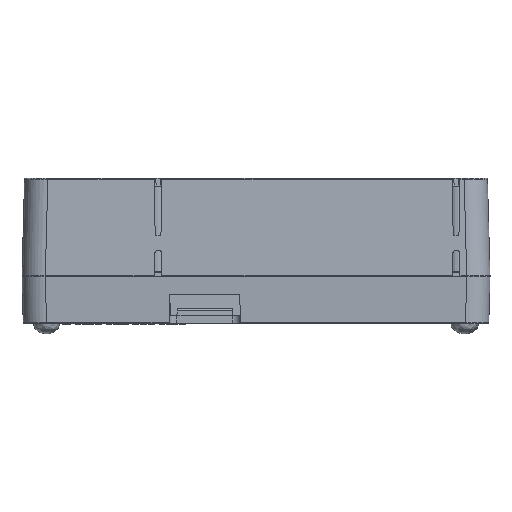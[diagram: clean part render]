
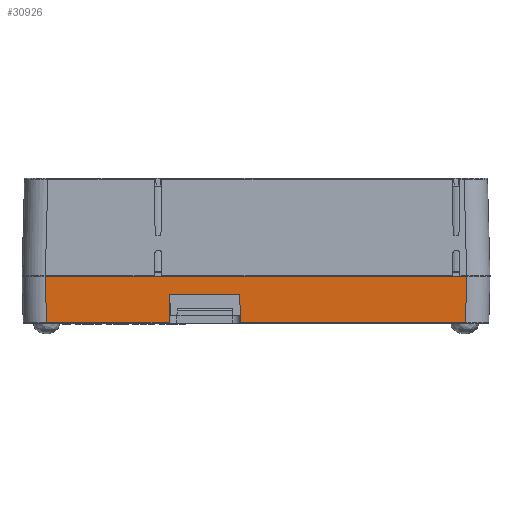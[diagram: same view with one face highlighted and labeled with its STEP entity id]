
A CAD part, front view. The second image highlights one B-rep face of the part: STEP entity #30926.
In plain terms, the highlighted planar face has unit normal (0, -1, -0.026).
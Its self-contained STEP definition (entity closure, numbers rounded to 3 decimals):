
#608 = DIRECTION ( 'NONE',  ( 0., 0.026, -1. ) ) ;
#686 = CARTESIAN_POINT ( 'NONE',  ( -2.971, -30.706, -1. ) ) ;
#1353 = CARTESIAN_POINT ( 'NONE',  ( 40.743, -30.741, 0.356 ) ) ;
#2431 = CARTESIAN_POINT ( 'NONE',  ( -16.622, -30.567, -6.305 ) ) ;
#2963 = CARTESIAN_POINT ( 'NONE',  ( -16.529, -30.706, -1. ) ) ;
#3591 = LINE ( 'NONE', #22329, #31141 ) ;
#3674 = ORIENTED_EDGE ( 'NONE', *, *, #4206, .F. ) ;
#3785 = LINE ( 'NONE', #11236, #10052 ) ;
#3903 = EDGE_CURVE ( 'NONE', #5690, #24559, #18200, .T. ) ;
#4190 = VERTEX_POINT ( 'NONE', #18963 ) ;
#4206 = EDGE_CURVE ( 'NONE', #4190, #29832, #30746, .T. ) ;
#4916 = EDGE_LOOP ( 'NONE', ( #18976, #23465, #10116, #3674, #7593, #26622, #27288, #9072 ) ) ;
#5210 = VECTOR ( 'NONE', #22655, 1000. ) ;
#5690 = VERTEX_POINT ( 'NONE', #7901 ) ;
#5838 = CARTESIAN_POINT ( 'NONE',  ( -45., -30.8, 2.6 ) ) ;
#6668 = LINE ( 'NONE', #6838, #19987 ) ;
#6838 = CARTESIAN_POINT ( 'NONE',  ( -16.475, -30.787, 2.102 ) ) ;
#7146 = VECTOR ( 'NONE', #11459, 1000. ) ;
#7593 = ORIENTED_EDGE ( 'NONE', *, *, #18164, .T. ) ;
#7901 = CARTESIAN_POINT ( 'NONE',  ( -40.268, -30.567, -6.305 ) ) ;
#9072 = ORIENTED_EDGE ( 'NONE', *, *, #32117, .T. ) ;
#9286 = VERTEX_POINT ( 'NONE', #33514 ) ;
#9820 = EDGE_CURVE ( 'NONE', #9286, #29832, #26480, .T. ) ;
#10052 = VECTOR ( 'NONE', #19260, 1000. ) ;
#10116 = ORIENTED_EDGE ( 'NONE', *, *, #9820, .T. ) ;
#10799 = AXIS2_PLACEMENT_3D ( 'NONE', #5838, #16567, #608 ) ;
#11199 = PLANE ( 'NONE',  #10799 ) ;
#11236 = CARTESIAN_POINT ( 'NONE',  ( -45., -30.706, -1. ) ) ;
#11459 = DIRECTION ( 'NONE',  ( 0.026, 0.026, -0.999 ) ) ;
#13767 = DIRECTION ( 'NONE',  ( 1., 0., 0. ) ) ;
#14315 = DIRECTION ( 'NONE',  ( -0.017, -0.026, 1. ) ) ;
#14820 = CARTESIAN_POINT ( 'NONE',  ( 40.563, -30.567, -6.305 ) ) ;
#15152 = EDGE_CURVE ( 'NONE', #33940, #20318, #3591, .T. ) ;
#15519 = VERTEX_POINT ( 'NONE', #2963 ) ;
#15695 = DIRECTION ( 'NONE',  ( 1., 0., 0. ) ) ;
#16560 = VECTOR ( 'NONE', #13767, 1000. ) ;
#16567 = DIRECTION ( 'NONE',  ( 0., -1., -0.026 ) ) ;
#18164 = EDGE_CURVE ( 'NONE', #4190, #5690, #28403, .T. ) ;
#18200 = LINE ( 'NONE', #14820, #24066 ) ;
#18912 = EDGE_CURVE ( 'NONE', #15519, #24559, #6668, .T. ) ;
#18963 = CARTESIAN_POINT ( 'NONE',  ( -40.502, -30.8, 2.6 ) ) ;
#18976 = ORIENTED_EDGE ( 'NONE', *, *, #15152, .F. ) ;
#19260 = DIRECTION ( 'NONE',  ( 1., 0., 0. ) ) ;
#19987 = VECTOR ( 'NONE', #22787, 1000. ) ;
#20318 = VERTEX_POINT ( 'NONE', #686 ) ;
#20373 = CARTESIAN_POINT ( 'NONE',  ( -2.878, -30.567, -6.305 ) ) ;
#20927 = CARTESIAN_POINT ( 'NONE',  ( 40.563, -30.567, -6.305 ) ) ;
#21788 = FACE_OUTER_BOUND ( 'NONE', #4916, .T. ) ;
#22139 = CARTESIAN_POINT ( 'NONE',  ( 40.802, -30.8, 2.6 ) ) ;
#22329 = CARTESIAN_POINT ( 'NONE',  ( -3.047, -30.819, 3.332 ) ) ;
#22655 = DIRECTION ( 'NONE',  ( 0.026, -0.026, 0.999 ) ) ;
#22787 = DIRECTION ( 'NONE',  ( -0.017, 0.026, -1. ) ) ;
#22984 = VECTOR ( 'NONE', #15695, 1000. ) ;
#23465 = ORIENTED_EDGE ( 'NONE', *, *, #31906, .T. ) ;
#24066 = VECTOR ( 'NONE', #33427, 1000. ) ;
#24297 = CARTESIAN_POINT ( 'NONE',  ( -45., -30.8, 2.6 ) ) ;
#24559 = VERTEX_POINT ( 'NONE', #2431 ) ;
#26480 = LINE ( 'NONE', #1353, #5210 ) ;
#26622 = ORIENTED_EDGE ( 'NONE', *, *, #3903, .T. ) ;
#27288 = ORIENTED_EDGE ( 'NONE', *, *, #18912, .F. ) ;
#28403 = LINE ( 'NONE', #30086, #7146 ) ;
#29832 = VERTEX_POINT ( 'NONE', #22139 ) ;
#30086 = CARTESIAN_POINT ( 'NONE',  ( -40.505, -30.803, 2.718 ) ) ;
#30746 = LINE ( 'NONE', #24297, #16560 ) ;
#30918 = LINE ( 'NONE', #20927, #22984 ) ;
#30926 = ADVANCED_FACE ( 'NONE', ( #21788 ), #11199, .T. ) ;
#31141 = VECTOR ( 'NONE', #14315, 1000. ) ;
#31906 = EDGE_CURVE ( 'NONE', #33940, #9286, #30918, .T. ) ;
#32117 = EDGE_CURVE ( 'NONE', #15519, #20318, #3785, .T. ) ;
#33427 = DIRECTION ( 'NONE',  ( 1., 0., 0. ) ) ;
#33514 = CARTESIAN_POINT ( 'NONE',  ( 40.568, -30.567, -6.305 ) ) ;
#33940 = VERTEX_POINT ( 'NONE', #20373 ) ;
